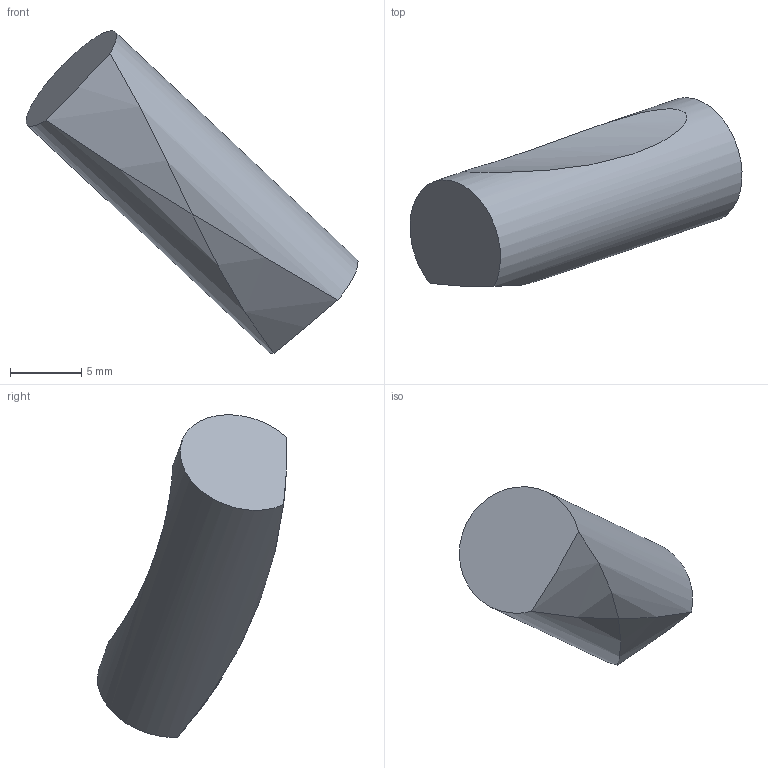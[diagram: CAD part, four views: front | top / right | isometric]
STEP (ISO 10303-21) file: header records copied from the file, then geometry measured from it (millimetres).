
FILE_DESCRIPTION(('Open CASCADE Model'),'2;1');
FILE_NAME('Open CASCADE Shape Model','2026-11-24T19:57:40',('Author'),( 'Open CASCADE'),'Open CASCADE STEP processor 7.8','Open CASCADE 7.8' ,'Unknown');
FILE_SCHEMA(('AUTOMOTIVE_DESIGN { 1 0 10303 214 1 1 1 1 }'));
Length unit declared in the file: millimetre
Products named in the file (1): Open CASCADE STEP translator 7.8 160
Bounding box: 23.32 x 13.29 x 22.66 mm (x, y, z)
Volume: 1447.9 mm3; surface area: 786.2 mm2
Topology: 1 solids, 1 shells, 6 faces, 9 edges, 6 vertices
Faces by surface type: cylinder 4, plane 2
Full cylindrical faces by diameter (mm): 9 x1
Entity records: 827 total; most frequent: CARTESIAN_POINT 651, DIRECTION 22, ORIENTED_EDGE 18, PCURVE 18, DEFINITIONAL_REPRESENTATION 18, B_SPLINE_CURVE_WITH_KNOTS 17, AXIS2_PLACEMENT_3D 9, EDGE_CURVE 9
